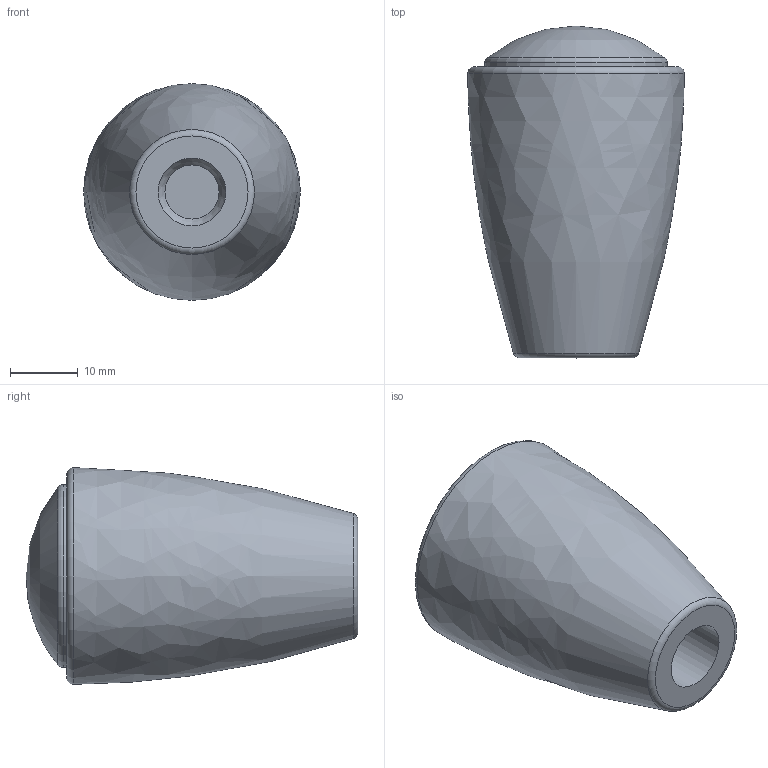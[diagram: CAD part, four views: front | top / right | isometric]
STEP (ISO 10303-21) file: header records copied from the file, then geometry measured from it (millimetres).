
FILE_DESCRIPTION( ( 'STEP AP203' ), '1' );
FILE_NAME( 'C:/Temp/Ganter_Step_05_03_2020/data/1_1/gn518/Tapered knob GN 518-32-B10.stp', '2020-03-05T10:03:34', ( 'License CC BY-ND 4.0' ), ( 'CADENAS' ), ' ', 'PARTsolutions', ' ' );
FILE_SCHEMA( ( 'CONFIG_CONTROL_DESIGN' ) );
Length unit declared in the file: millimetre
Products named in the file (1): _Tapered knob GN 518-32-B10
Bounding box: 31.99 x 49 x 31.99 mm (x, y, z)
Volume: 25538.1 mm3; surface area: 5885.7 mm2
Topology: 1 solids, 1 shells, 12 faces, 21 edges, 12 vertices
Faces by surface type: cylinder 3, plane 3, torus 3, cone 1, bspline 1, sphere 1
Full cylindrical faces by diameter (mm): 8 x1, 10 x1, 27 x1
Entity records: 309 total; most frequent: CARTESIAN_POINT 64, DIRECTION 46, AXIS2_PLACEMENT_3D 23, EDGE_LOOP 22, ORIENTED_EDGE 22, FACE_OUTER_BOUND 19, VERTEX_POINT 13, ADVANCED_FACE 12
